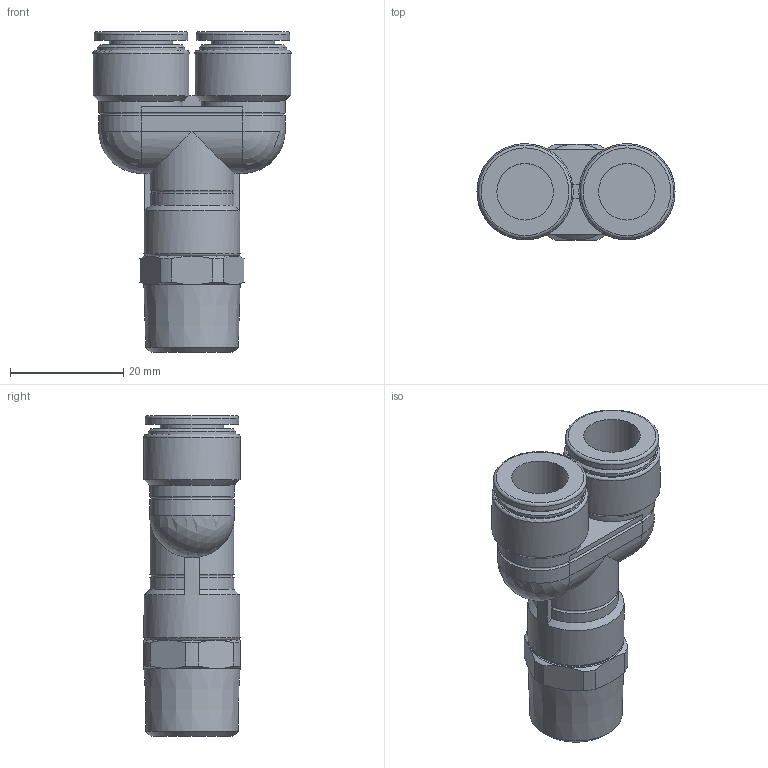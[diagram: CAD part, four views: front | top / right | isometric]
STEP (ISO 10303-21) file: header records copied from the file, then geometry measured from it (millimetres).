
FILE_DESCRIPTION(/* description */ (''),/* implementation_level */ '2;1');
FILE_NAME(/* name */ 'E:\2013年度版　3D-DATA\【02】 TOUCH CONNECTOR FIVE SUS\[04] MALE BRANCH Y\[13] FS10-03MY FS10-03MYW.stp',/* time_stamp */ '2013-08-06T16:55:52+09:00',/* author */ ('takahashi-pc2'),/* organization */ (''),/* preprocessor_version */ 'ST-DEVELOPER v15.2',/* originating_system */ 'Autodesk Inventor 2014',/* authorisation */ '');
FILE_SCHEMA (('AUTOMOTIVE_DESIGN { 1 0 10303 214 3 1 1 }'));
Length unit declared in the file: millimetre
Products named in the file (1): [13] FS10-03MY FS10-03MYW
Bounding box: 35 x 17.01 x 56.7 mm (x, y, z)
Volume: 14689.2 mm3; surface area: 6259.3 mm2
Topology: 1 solids, 1 shells, 92 faces, 206 edges, 122 vertices
Faces by surface type: plane 32, cylinder 29, cone 20, torus 9, sphere 2
Full cylindrical faces by diameter (mm): 10 x2, 11.2 x2, 15.5 x2, 16.5 x2, 17 x3
Entity records: 2437 total; most frequent: CARTESIAN_POINT 533, DIRECTION 414, ORIENTED_EDGE 358, AXIS2_PLACEMENT_3D 180, EDGE_CURVE 179, EDGE_LOOP 122, VERTEX_POINT 119, ADVANCED_FACE 92
